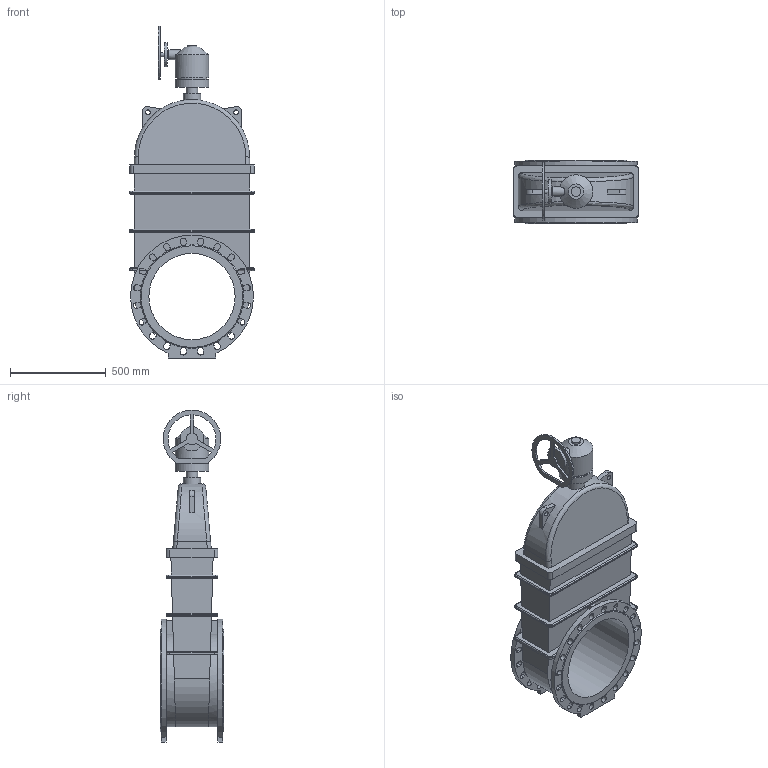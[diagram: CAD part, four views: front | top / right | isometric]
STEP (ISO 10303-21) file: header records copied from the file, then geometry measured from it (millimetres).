
FILE_DESCRIPTION(('STEP AP203'), '1');
FILE_NAME('Çàäâèæêà 47GV.Z DN450 PN10_PN16 + ðåäóêòîð ñ ìàõîâèêîì', '', ('UNSPECIFIED'), ('UNSPECIFIED'), 'ASCON STEP Converter 1.6', 'ASCON Math Kernel', '');
FILE_SCHEMA(('CONFIG_CONTROL_DESIGN'));
Length unit declared in the file: millimetre
Bounding box: 650 x 330 x 1730 mm (x, y, z)
Volume: 123879092.5 mm3; surface area: 3642667.3 mm2
Topology: 1 solids, 1 shells, 374 faces, 1095 edges, 713 vertices
Faces by surface type: plane 184, cylinder 163, bspline 24, cone 3
Full cylindrical faces by diameter (mm): 14 x4, 18 x4, 20 x1, 25 x2, 30 x1, 50 x2, 60 x1, 90 x1, 125 x1, 155 x1, 175 x2, 450 x1
Entity records: 19793 total; most frequent: CARTESIAN_POINT 6800, ORIENTED_EDGE 2142, DIRECTION 2025, EDGE_CURVE 1071, AXIS2_PLACEMENT_3D 723, VERTEX_POINT 713, LINE 579, VECTOR 579
